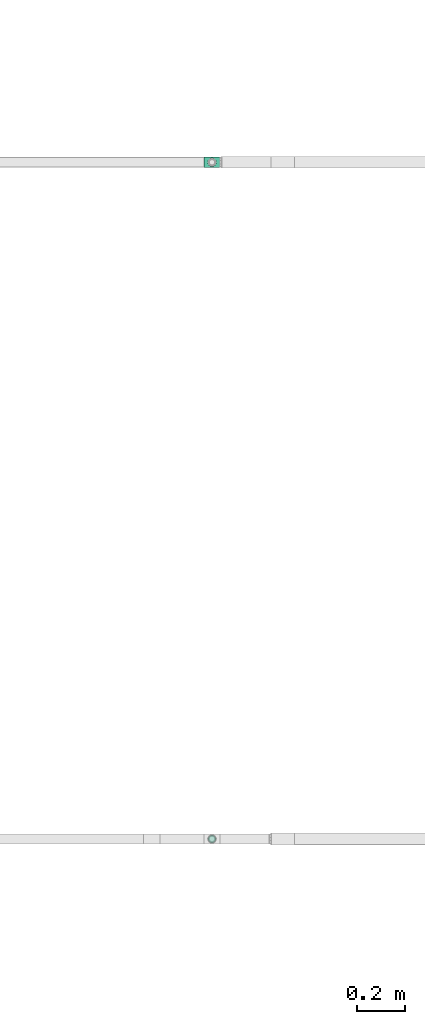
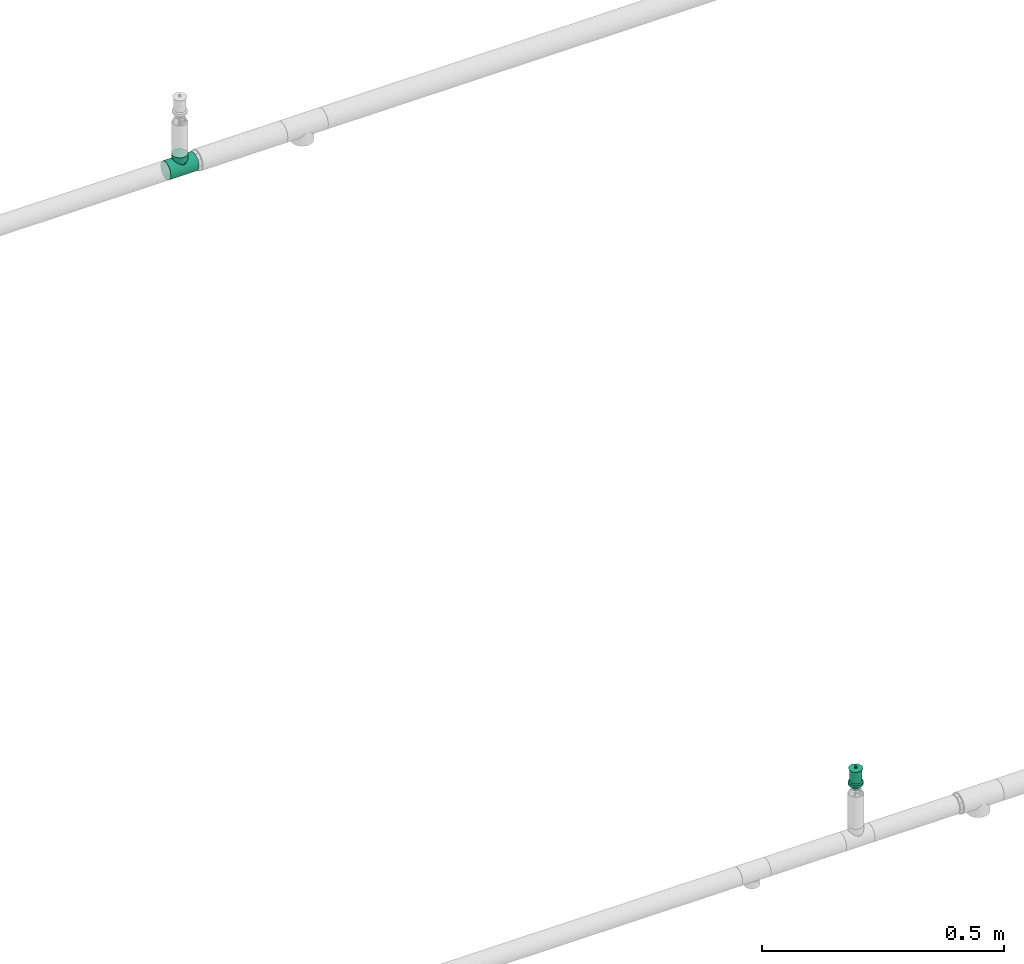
# One storey, part 75 of 94: 1 flow fitting, 1 flow terminal.
"""IFC2X3 building model written with IfcOpenShell, lengths in millimetres."""

from ifc_helpers import new_model, entity, si_unit, converted_unit, derived_unit, direction, frame, origin_with_axes, place, context, subcontext, project, spatial, open_shell, surface_model, source, transform, mapped, type_object, element, save


model = new_model("IFC2X3")

# Units and contexts
model_context = context("Model", 3, precision=0.01, world=frame((0.0, 4.29681676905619e-09, 0.0)), true_north=direction((4.01073788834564e-13, 1.0)))
plan_context = context("Plan", 3, precision=0.01, world=frame((0.0, 4.29681676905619e-09, 0.0)), true_north=direction((4.01073788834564e-13, 1.0)))
body_context = subcontext(model_context, "Body", "Model", "MODEL_VIEW")
ifc_project = project(units=[converted_unit("PLANEANGLEUNIT", "DEGREE", entity("IfcPositiveLengthMeasure", 0.0174532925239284), si_unit("PLANEANGLEUNIT", "RADIAN"), dimensions=[0, 0, 0, 0, 0, 0, 0]), si_unit("AREAUNIT", "SQUARE_METRE"), si_unit("LENGTHUNIT", "METRE", prefix="MILLI"), si_unit("MASSUNIT", "GRAM", prefix="KILO"), si_unit("POWERUNIT", "WATT"), si_unit("PRESSUREUNIT", "PASCAL"), si_unit("FORCEUNIT", "NEWTON", prefix="KILO"), si_unit("ELECTRICCURRENTUNIT", "AMPERE"), si_unit("THERMODYNAMICTEMPERATUREUNIT", "DEGREE_CELSIUS"), si_unit("TIMEUNIT", "SECOND"), si_unit("VOLUMEUNIT", "CUBIC_METRE"), derived_unit("LINEARVELOCITYUNIT", [(si_unit("LENGTHUNIT", "METRE"), 1), (si_unit("TIMEUNIT", "SECOND"), -1)]), derived_unit("VOLUMETRICFLOWRATEUNIT", [(si_unit("VOLUMEUNIT", "CUBIC_METRE"), 1), (si_unit("TIMEUNIT", "SECOND"), -1)]), derived_unit("THERMALTRANSMITTANCEUNIT", [(si_unit("POWERUNIT", "WATT"), 1), (si_unit("THERMODYNAMICTEMPERATUREUNIT", "KELVIN"), -1), (si_unit("AREAUNIT", "SQUARE_METRE"), -1)])], contexts=[model_context, plan_context])

# Site, building, storey
site_placement = place(None, frame((0.0, -4.29681676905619e-09, 0.0), z_axis=(0.0, 0.0, 1.0), x_axis=(1.0, 0.0, 0.0)))
site = spatial("IfcSite", under=ifc_project, at=site_placement, CompositionType="ELEMENT")
building_placement = place(site_placement, frame((0.0, 4.29681676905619e-09, 0.0), z_axis=(0.0, 0.0, 1.0), x_axis=(1.0, 0.0, 0.0)))
building = spatial("IfcBuilding", under=site, at=building_placement, Name="mc-building", CompositionType="ELEMENT")
storey_placement = place(building_placement, frame((0.0, 0.0, 200300.0), z_axis=(0.0, 0.0, 1.0), x_axis=(1.0, 0.0, 0.0)))
storey = spatial("IfcBuildingStorey", under=building, at=storey_placement, Name="Nivå C", CompositionType="ELEMENT", Elevation=200300.0)

# Flow fitting
pipe_fitting_type = type_object("IfcPipeFittingType", Name="magi_pipe_fe_tee_centric_90_NOR", PredefinedType="JUNCTION")
shared_shape_1 = source(origin_with_axes(), body_context, "Body", "SurfaceModel", [
    surface_model("IfcShellBasedSurfaceModel", [(-33.8, 0.0, -21.2), (-33.8, -5.48696, -20.47763), (-33.8, 5.48696, -20.47763), (-33.8, 10.6, -18.35974), (-33.8, 14.99066, -14.99066), (-33.8, -20.47763, 5.48696), (-33.8, 18.35974, -10.6), (-33.8, 10.6, 18.35974), (-33.8, -14.99066, -14.99066), (-33.8, -18.35974, -10.6), (-33.8, -10.6, -18.35974), (-33.8, -20.47763, -5.48696), (-33.8, -21.2, 0.0), (-33.8, 18.35974, 10.6), (-33.8, 20.47763, -5.48696), (-33.8, 20.47763, 5.48696), (-33.8, 21.2, 0.0), (-33.8, 14.99066, 14.99066), (-33.8, 5.48696, 20.47763), (-33.8, 0.0, 21.2), (-33.8, -18.35974, 10.6), (-33.8, -14.99066, 14.99066), (-33.8, -10.6, 18.35974), (-33.8, -5.48696, 20.47763), (33.8, 5.48696, -20.47763), (33.8, -5.48696, -20.47763), (33.8, 0.0, -21.2), (33.8, 14.99066, -14.99066), (33.8, 10.6, -18.35974), (33.8, 18.35974, -10.6), (33.8, 20.47763, -5.48696), (33.8, -21.2, 0.0), (33.8, -10.6, -18.35974), (33.8, -18.35974, -10.6), (33.8, -14.99066, -14.99066), (33.8, -20.47763, -5.48696), (33.8, -20.47763, 5.48696), (33.8, 21.2, 0.0), (33.8, 20.47763, 5.48696), (33.8, 18.35974, 10.6), (33.8, 10.6, 18.35974), (33.8, 14.99066, 14.99066), (33.8, 0.0, 21.2), (33.8, 5.48696, 20.47763), (33.8, -14.99066, 14.99066), (33.8, -18.35974, 10.6), (33.8, -10.6, 18.35974), (33.8, -5.48696, 20.47763), (16.9, -21.2, 0.0), (15.78624, -20.32327, 6.03364), (12.81343, -18.11115, 11.01935), (8.52479, -15.37862, 14.59239), (3.07939, -13.16482, 16.61708), (-16.9, -21.2, 0.0), (-15.78686, -20.32375, 6.032), (-8.52604, -15.37932, 14.59166), (-3.0848, -13.16609, 16.61608), (-12.81602, -18.11299, 11.01634), (3.07939, -13.16482, -16.61708), (12.81343, -18.11115, -11.01935), (8.52479, -15.37862, -14.59239), (15.78624, -20.32327, -6.03364), (-3.0848, -13.16609, -16.61608), (-8.52604, -15.37932, -14.59166), (-12.81602, -18.11299, -11.01634), (-15.78686, -20.32375, -6.032), (4.37404, -31.8, -16.32415), (-16.9, -31.8, 0.0), (0.0, -31.8, -16.9), (14.63583, -31.8, -8.45), (8.45, -31.8, -14.63583), (16.32415, -31.8, -4.37404), (11.9501, -31.8, -11.9501), (-11.9501, -31.8, -11.9501), (-8.45, -31.8, -14.63583), (-4.37404, -31.8, -16.32415), (-14.63583, -31.8, -8.45), (-16.32415, -31.8, -4.37404), (16.9, -31.8, 0.0), (8.45, -31.8, 14.63583), (16.32415, -31.8, 4.37404), (14.63583, -31.8, 8.45), (-8.45, -31.8, 14.63583), (11.9501, -31.8, 11.9501), (4.37404, -31.8, 16.32415), (-16.32415, -31.8, 4.37404), (-11.9501, -31.8, 11.9501), (-14.63583, -31.8, 8.45), (0.0, -31.8, 16.9), (-4.37404, -31.8, 16.32415), (-16.34343, -20.76188, 3.016), (16.34312, -20.76163, 3.01682), (-0.00271, -13.16546, 16.61658), (16.34312, -20.76163, -3.01682), (-0.00271, -13.16546, -16.61658), (-16.34343, -20.76188, -3.016)], [open_shell([[[0, 1, 2]], [[3, 2, 4]], [[5, 2, 1]], [[4, 2, 6]], [[6, 2, 7]], [[8, 9, 10]], [[1, 10, 9]], [[9, 11, 1]], [[12, 1, 11]], [[5, 1, 12]], [[13, 14, 6]], [[13, 15, 16]], [[6, 7, 13]], [[5, 7, 2]], [[17, 13, 7]], [[18, 7, 19]], [[20, 21, 5]], [[22, 5, 21]], [[23, 19, 22]], [[7, 5, 22]], [[22, 19, 7]], [[16, 14, 13]], [[24, 25, 26]], [[27, 24, 28]], [[29, 30, 24]], [[29, 24, 27]], [[31, 24, 30]], [[32, 33, 34]], [[33, 32, 25]], [[33, 31, 35]], [[31, 33, 25]], [[25, 24, 31]], [[30, 36, 31]], [[37, 38, 39]], [[37, 39, 40]], [[37, 40, 36]], [[40, 39, 41]], [[42, 40, 43]], [[36, 44, 45]], [[44, 36, 46]], [[46, 42, 47]], [[46, 36, 40]], [[40, 42, 46]], [[37, 36, 30]], [[31, 36, 48]], [[49, 48, 36]], [[36, 45, 49]], [[45, 44, 50]], [[51, 50, 44]], [[52, 51, 44]], [[44, 46, 52]], [[45, 50, 49]], [[53, 54, 5]], [[5, 12, 53]], [[54, 20, 5]], [[55, 56, 21]], [[20, 57, 21]], [[57, 20, 54]], [[21, 57, 55]], [[56, 22, 21]], [[52, 22, 56]], [[19, 47, 42]], [[23, 46, 47]], [[18, 42, 43]], [[39, 38, 15]], [[17, 40, 41]], [[13, 41, 39]], [[43, 40, 7]], [[16, 38, 37]], [[22, 46, 23]], [[23, 47, 19]], [[18, 19, 42]], [[43, 7, 18]], [[7, 40, 17]], [[13, 17, 41]], [[15, 13, 39]], [[38, 16, 15]], [[46, 22, 52]], [[6, 30, 29]], [[14, 37, 30]], [[4, 29, 27]], [[26, 25, 1]], [[2, 28, 24]], [[0, 24, 26]], [[27, 28, 3]], [[10, 25, 32]], [[16, 37, 14]], [[14, 30, 6]], [[4, 6, 29]], [[27, 3, 4]], [[3, 28, 2]], [[0, 2, 24]], [[1, 0, 26]], [[25, 10, 1]], [[32, 58, 10]], [[34, 59, 60]], [[59, 34, 33]], [[60, 58, 34]], [[34, 58, 32]], [[35, 31, 48]], [[35, 61, 33]], [[61, 35, 48]], [[33, 61, 59]], [[62, 63, 8]], [[8, 64, 9]], [[64, 8, 63]], [[62, 8, 10]], [[65, 53, 11]], [[65, 11, 9]], [[11, 53, 12]], [[65, 9, 64]], [[58, 62, 10]], [[66, 67, 68]], [[69, 66, 70]], [[69, 71, 66]], [[69, 70, 72]], [[67, 66, 71]], [[68, 73, 74]], [[74, 75, 68]], [[76, 67, 77]], [[73, 68, 76]], [[67, 76, 68]], [[71, 78, 67]], [[79, 78, 80]], [[79, 80, 81]], [[82, 67, 79]], [[79, 81, 83]], [[82, 79, 84]], [[85, 86, 87]], [[86, 85, 82]], [[82, 88, 89]], [[85, 67, 82]], [[84, 88, 82]], [[79, 67, 78]], [[85, 90, 67]], [[57, 87, 86]], [[85, 87, 54]], [[86, 82, 55]], [[85, 54, 90]], [[90, 53, 67]], [[54, 87, 57]], [[91, 49, 80]], [[55, 89, 56]], [[55, 57, 86]], [[88, 52, 92]], [[55, 82, 89]], [[52, 88, 84]], [[79, 51, 84]], [[50, 83, 81]], [[83, 51, 79]], [[81, 80, 49]], [[83, 50, 51]], [[51, 52, 84]], [[78, 91, 80]], [[49, 50, 81]], [[91, 78, 48]], [[88, 56, 89]], [[92, 56, 88]], [[71, 93, 78]], [[59, 69, 72]], [[71, 69, 61]], [[72, 70, 60]], [[93, 48, 78]], [[61, 69, 59]], [[60, 66, 58]], [[60, 59, 72]], [[68, 62, 94]], [[60, 70, 66]], [[95, 67, 53]], [[95, 65, 77]], [[71, 61, 93]], [[75, 62, 68]], [[65, 76, 77]], [[73, 76, 64]], [[68, 58, 66]], [[75, 63, 62]], [[63, 75, 74]], [[74, 73, 63]], [[63, 73, 64]], [[64, 76, 65]], [[67, 95, 77]], [[94, 58, 68]]])]),
])
flow_fitting_placement = place(storey_placement, frame((530502.26879, 416298.62756, 2850.0), z_axis=(0.0, -1.0, 0.0), x_axis=(-1.0, 0.0, 0.0)))
element("IfcFlowFitting", 1, at=flow_fitting_placement, inside=storey, type_object=pipe_fitting_type, Name="magi_pipe_fe_tee_centric_90_NOR", context=body_context, shape_type="MappedRepresentation", body=[
    mapped(shared_shape_1, transform((0.0, 0.0, 0.0), scale=1.0)),
])

# Flow terminal
fire_suppression_terminal_type = type_object("IfcFireSuppressionTerminalType", Name="68DGR-STD-STÅENDE", PredefinedType="NOTDEFINED")
shared_shape_2 = source(origin_with_axes(), body_context, "Body", "SurfaceModel", [
    surface_model("IfcShellBasedSurfaceModel", [(12.55704, 3.36465, 21.14766), (13.0, 0.0, 21.14766), (12.55704, -3.36465, 21.14766), (-12.55704, -3.36465, 21.14766), (-11.25833, -6.5, 21.14766), (-11.25833, -6.5, 51.0), (3.36465, -12.55704, 51.0), (3.36465, -12.55704, 21.14766), (6.5, -11.25833, 21.14766), (9.19239, -9.19239, 21.14766), (11.25833, -6.5, 21.14766), (9.19239, -9.19239, 51.0), (6.5, -11.25833, 51.0), (11.25833, -6.5, 51.0), (12.55704, -3.36465, 51.0), (13.0, 0.0, 51.0), (9.19239, 9.19239, 51.0), (11.25833, 6.5, 21.14766), (9.19239, 9.19239, 21.14766), (11.25833, 6.5, 51.0), (12.55704, 3.36465, 51.0), (6.5, 11.25833, 51.0), (6.5, 11.25833, 21.14766), (3.36465, 12.55704, 21.14766), (3.36465, 12.55704, 51.0), (-11.25833, 6.5, 51.0), (-11.25833, 6.5, 21.14766), (-12.55704, 3.36465, 21.14766), (0.0, -2.5, 51.0), (-2.5, 0.0, 51.0), (0.0, 2.5, 51.0), (2.5, 0.0, 51.0), (11.31371, 11.31371, 53.0), (-11.31371, 11.31371, 53.0), (-11.31371, -11.31371, 53.0), (11.31371, -11.31371, 53.0), (1.62635, 1.62635, 51.0), (2.16506, 1.25, 51.0), (1.99186, 1.15, 51.0), (-1.76777, 1.76777, 51.0), (-1.25, 2.16506, 51.0), (-1.62635, 1.62635, 51.0), (1.99186, -1.15, 51.0), (2.16506, -1.25, 51.0), (1.62635, -1.62635, 51.0), (-1.62635, -1.62635, 51.0), (-1.25, -2.16506, 51.0), (-1.76777, -1.76777, 51.0), (0.0, 7.3, 0.0), (1.94114, 7.24444, 0.0), (1.88938, 7.05126, 0.0), (5.16188, 5.16188, 0.0), (6.49519, 3.75, 0.0), (6.32199, 3.65, 0.0), (-5.3033, 5.3033, 0.0), (-3.75, 6.49519, 0.0), (-5.16188, 5.16188, 0.0), (6.32199, -3.65, 0.0), (6.49519, -3.75, 0.0), (5.16188, -5.16188, 0.0), (1.88938, -7.05126, 0.0), (1.94114, -7.24444, 0.0), (0.0, -7.3, 0.0), (-5.16188, -5.16188, 0.0), (-3.75, -6.49519, 0.0), (-5.3033, -5.3033, 0.0), (-3.36465, 12.55704, 51.0), (-6.5, 11.25833, 51.0), (0.0, 13.0, 51.0), (-9.19239, 9.19239, 51.0), (0.0, -13.0, 51.0), (-9.19239, -9.19239, 51.0), (-12.55704, -3.36465, 51.0), (-6.5, -11.25833, 51.0), (-3.36465, -12.55704, 51.0), (-7.5, 0.0, -0.1), (-7.24444, 1.94114, 0.1), (-7.24444, 1.94114, -0.1), (-6.49519, 3.75, 0.1), (-6.49519, 3.75, -0.1), (-3.75, 6.49519, -0.1), (-5.3033, 5.3033, -0.1), (-3.75, 6.49519, 0.1), (-5.3033, 5.3033, 0.1), (-1.94114, 7.24444, -0.1), (-1.94114, 7.24444, 0.1), (-7.5, 0.0, 0.1), (0.0, 7.5, 0.1), (0.0, 7.5, -0.1), (1.94114, 7.24444, 0.1), (1.94114, 7.24444, -0.1), (3.75, 6.49519, 0.1), (3.75, 6.49519, -0.1), (6.49519, 3.75, -0.1), (5.3033, 5.3033, -0.1), (6.49519, 3.75, 0.1), (5.3033, 5.3033, 0.1), (7.24444, 1.94114, -0.1), (7.24444, 1.94114, 0.1), (7.5, 0.0, 0.1), (7.5, 0.0, -0.1), (-7.24444, -1.94114, 0.1), (7.24444, -1.94114, 0.1), (5.3033, -5.3033, 0.1), (6.49519, -3.75, 0.1), (-6.49519, -3.75, 0.1), (0.0, -7.5, 0.1), (1.94114, -7.24444, 0.1), (3.75, -6.49519, 0.1), (-3.75, -6.49519, 0.1), (-1.94114, -7.24444, 0.1), (-5.3033, -5.3033, 0.1), (0.0, -7.5, -0.1), (-6.49519, -3.75, -0.1), (1.94114, -7.24444, -0.1), (3.75, -6.49519, -0.1), (5.3033, -5.3033, -0.1), (7.24444, -1.94114, -0.1), (6.49519, -3.75, -0.1), (-3.75, -6.49519, -0.1), (-5.3033, -5.3033, -0.1), (-1.94114, -7.24444, -0.1), (-7.24444, -1.94114, -0.1), (16.0, 0.0, 53.0), (0.0, -16.0, 53.0), (-16.0, 0.0, 53.0), (0.0, 16.0, 53.0), (0.64705, 2.41481, 57.0), (0.0, 2.5, 57.0), (1.25, 2.16506, 57.0), (-2.5, 0.0, 57.0), (1.76777, 1.76777, 57.0), (2.41481, 0.64705, 57.0), (2.16506, 1.25, 57.0), (-0.64705, 2.41481, 57.0), (-1.25, 2.16506, 57.0), (-1.76777, 1.76777, 57.0), (-2.16506, 1.25, 57.0), (-2.41481, 0.64705, 57.0), (2.5, 0.0, 57.0), (1.76777, -1.76777, 57.0), (2.16506, -1.25, 57.0), (2.41481, -0.64705, 57.0), (-2.41481, -0.64705, 57.0), (0.64705, -2.41481, 57.0), (1.25, -2.16506, 57.0), (0.0, -2.5, 57.0), (-1.76777, -1.76777, 57.0), (-2.16506, -1.25, 57.0), (-1.25, -2.16506, 57.0), (-0.64705, -2.41481, 57.0), (1.15, -1.99186, 51.0), (1.76777, -1.76777, 51.0), (1.25, -2.16506, 51.0), (0.59528, -2.22163, 51.0), (0.0, -2.3, 51.0), (0.64705, -2.41481, 51.0), (2.22163, -0.59528, 51.0), (2.3, 0.0, 51.0), (2.41481, -0.64705, 51.0), (-0.64705, -2.41481, 51.0), (-0.59528, -2.22163, 51.0), (-1.15, -1.99186, 51.0), (-2.16506, -1.25, 51.0), (-1.99186, -1.15, 51.0), (-2.22163, -0.59528, 51.0), (-2.3, 0.0, 51.0), (-2.41481, -0.64705, 51.0), (2.22163, 0.59528, 51.0), (2.41481, 0.64705, 51.0), (1.76777, 1.76777, 51.0), (1.15, 1.99186, 51.0), (1.25, 2.16506, 51.0), (0.59528, 2.22163, 51.0), (0.0, 2.3, 51.0), (0.64705, 2.41481, 51.0), (-1.99186, 1.15, 51.0), (-2.16506, 1.25, 51.0), (-2.41481, 0.64705, 51.0), (-2.22163, 0.59528, 51.0), (-0.64705, 2.41481, 51.0), (-0.59528, 2.22163, 51.0), (-1.15, 1.99186, 51.0), (-2.22163, 0.59528, 56.8), (-1.99186, 1.15, 56.8), (-1.15, 1.99186, 56.8), (-1.62635, 1.62635, 56.8), (-0.59528, 2.22163, 56.8), (-2.3, 0.0, 56.8), (0.0, 2.3, 56.8), (0.59528, 2.22163, 56.8), (1.15, 1.99186, 56.8), (1.99186, 1.15, 56.8), (1.62635, 1.62635, 56.8), (2.22163, 0.59528, 56.8), (2.3, 0.0, 56.8), (2.22163, -0.59528, 56.8), (1.99186, -1.15, 56.8), (1.62635, -1.62635, 56.8), (1.15, -1.99186, 56.8), (0.59528, -2.22163, 56.8), (0.0, -2.3, 56.8), (-1.99186, -1.15, 56.8), (-2.22163, -0.59528, 56.8), (-1.62635, -1.62635, 56.8), (-0.59528, -2.22163, 56.8), (-1.15, -1.99186, 56.8), (8.0, -13.85641, 13.0), (4.1411, -15.45481, 13.0), (0.0, -16.0, 13.0), (-4.1411, -15.45481, 13.0), (15.45481, -4.1411, 13.0), (13.85641, -8.0, 13.0), (11.31371, -11.31371, 13.0), (-16.0, 0.0, 13.0), (-8.0, -13.85641, 13.0), (-11.31371, -11.31371, 13.0), (-13.85641, -8.0, 13.0), (-15.45481, -4.1411, 13.0), (15.45481, 4.1411, 13.0), (4.1411, 15.45481, 13.0), (13.85641, 8.0, 13.0), (8.0, 13.85641, 13.0), (11.31371, 11.31371, 13.0), (-15.45481, 4.1411, 13.0), (-11.31371, 11.31371, 13.0), (-8.0, 13.85641, 13.0), (-13.85641, 8.0, 13.0), (-4.1411, 15.45481, 13.0), (0.0, 16.0, 13.0), (16.0, 0.0, 13.0), (7.05126, 1.88938, 12.8), (1.88938, 7.05126, 12.8), (3.65, 6.32199, 12.8), (6.32199, 3.65, 12.8), (5.16188, 5.16188, 12.8), (7.3, 0.0, 12.8), (0.0, 7.3, 12.8), (-3.65, 6.32199, 12.8), (-1.88938, 7.05126, 12.8), (-5.16188, 5.16188, 12.8), (-7.05126, 1.88938, 12.8), (-6.32199, 3.65, 12.8), (7.05126, -1.88938, 12.8), (0.0, -7.3, 12.8), (6.32199, -3.65, 12.8), (3.65, -6.32199, 12.8), (5.16188, -5.16188, 12.8), (1.88938, -7.05126, 12.8), (-7.3, 0.0, 12.8), (-6.32199, -3.65, 12.8), (-7.05126, -1.88938, 12.8), (-1.88938, -7.05126, 12.8), (-5.16188, -5.16188, 12.8), (-3.65, -6.32199, 12.8), (-7.05126, 1.88938, 0.0), (-7.3, 0.0, 0.0), (-6.32199, 3.65, 0.0), (-3.65, 6.32199, 0.0), (-1.88938, 7.05126, 0.0), (3.65, 6.32199, 0.0), (7.05126, 1.88938, 0.0), (7.3, 0.0, 0.0), (3.75, 6.49519, 13.0), (1.94114, 7.24444, 13.0), (7.5, 0.0, 13.0), (5.3033, 5.3033, 13.0), (7.24444, 1.94114, 13.0), (6.49519, 3.75, 13.0), (-5.3033, 5.3033, 13.0), (-7.24444, -1.94114, 13.0), (-1.94114, 7.24444, 13.0), (-3.75, 6.49519, 13.0), (0.0, 7.5, 13.0), (-6.49519, 3.75, 13.0), (-7.24444, 1.94114, 13.0), (7.24444, -1.94114, 13.0), (5.3033, -5.3033, 13.0), (6.49519, -3.75, 13.0), (-6.49519, -3.75, 13.0), (0.0, -7.5, 13.0), (1.94114, -7.24444, 13.0), (3.75, -6.49519, 13.0), (-7.5, 0.0, 13.0), (-3.75, -6.49519, 13.0), (-1.94114, -7.24444, 13.0), (-5.3033, -5.3033, 13.0), (3.65, -6.32199, 0.0), (5.3033, -5.3033, 0.0), (3.75, -6.49519, 0.0), (0.0, -7.5, 0.0), (7.05126, -1.88938, 0.0), (7.24444, -1.94114, 0.0), (7.5, 0.0, 0.0), (-1.94114, -7.24444, 0.0), (-1.88938, -7.05126, 0.0), (-3.65, -6.32199, 0.0), (-6.49519, -3.75, 0.0), (-6.32199, -3.65, 0.0), (-7.05126, -1.88938, 0.0), (-7.24444, -1.94114, 0.0), (-7.5, 0.0, 0.0), (7.24444, 1.94114, 0.0), (5.3033, 5.3033, 0.0), (3.75, 6.49519, 0.0), (0.0, 7.5, 0.0), (-6.49519, 3.75, 0.0), (-7.24444, 1.94114, 0.0), (-1.94114, 7.24444, 0.0), (-12.55704, 3.36465, 51.0), (-13.0, 0.0, 51.0), (0.0, -13.0, 21.14766), (-3.36465, -12.55704, 21.14766), (-6.5, -11.25833, 21.14766), (-9.19239, -9.19239, 21.14766), (-13.0, 0.0, 21.14766), (-9.19239, 9.19239, 21.14766), (-6.5, 11.25833, 21.14766), (-3.36465, 12.55704, 21.14766), (0.0, 13.0, 21.14766), (11.31371, 11.31371, 19.0), (8.0, 13.85641, 19.0), (4.1411, 15.45481, 19.0), (-8.0, 13.85641, 19.0), (16.0, 0.0, 19.0), (15.45481, 4.1411, 19.0), (13.85641, 8.0, 19.0), (-4.1411, 15.45481, 19.0), (0.0, 16.0, 19.0), (-11.31371, 11.31371, 19.0), (-13.85641, 8.0, 19.0), (-15.45481, 4.1411, 19.0), (15.45481, -4.1411, 19.0), (11.31371, -11.31371, 19.0), (13.85641, -8.0, 19.0), (-16.0, 0.0, 19.0), (0.0, -16.0, 19.0), (4.1411, -15.45481, 19.0), (8.0, -13.85641, 19.0), (-13.85641, -8.0, 19.0), (-11.31371, -11.31371, 19.0), (-15.45481, -4.1411, 19.0), (-8.0, -13.85641, 19.0), (-4.1411, -15.45481, 19.0)], [open_shell([[[0, 1, 2]], [[3, 4, 5]], [[6, 7, 8]], [[9, 10, 11]], [[9, 11, 12]], [[10, 13, 11]], [[14, 13, 2]], [[1, 15, 14]], [[16, 17, 18]], [[0, 19, 20]], [[20, 15, 1]], [[21, 16, 18]], [[22, 23, 24]], [[16, 19, 17]], [[25, 26, 27]], [[28, 29, 30]], [[30, 31, 28]], [[31, 30, 32]], [[33, 30, 29]], [[29, 28, 34]], [[35, 28, 31]], [[36, 37, 38]], [[39, 40, 41]], [[42, 43, 44]], [[45, 46, 47]], [[48, 49, 50]], [[51, 52, 53]], [[54, 55, 56]], [[57, 58, 59]], [[60, 61, 62]], [[63, 64, 65]], [[66, 67, 68]], [[67, 24, 68]], [[69, 25, 67]], [[15, 20, 14]], [[70, 6, 12]], [[5, 71, 72]], [[73, 74, 71]], [[72, 71, 74]], [[75, 76, 77]], [[77, 78, 79]], [[80, 81, 82]], [[83, 81, 79]], [[84, 80, 85]], [[76, 78, 77]], [[75, 86, 76]], [[80, 82, 85]], [[82, 81, 83]], [[79, 78, 83]], [[84, 85, 87]], [[87, 88, 84]], [[88, 89, 90]], [[90, 91, 92]], [[93, 94, 95]], [[96, 94, 92]], [[97, 93, 98]], [[91, 96, 92]], [[90, 89, 91]], [[97, 98, 99]], [[98, 93, 95]], [[94, 96, 95]], [[97, 99, 100]], [[87, 89, 88]], [[91, 89, 99]], [[96, 91, 98]], [[91, 99, 98]], [[95, 96, 98]], [[89, 83, 101]], [[85, 82, 87]], [[83, 87, 82]], [[78, 76, 83]], [[89, 87, 83]], [[76, 101, 83]], [[102, 99, 89]], [[103, 104, 102]], [[89, 105, 103]], [[103, 106, 107]], [[108, 103, 107]], [[106, 103, 105]], [[89, 101, 105]], [[101, 76, 86]], [[109, 110, 111]], [[105, 111, 110]], [[106, 105, 110]], [[103, 102, 89]], [[112, 113, 114]], [[115, 114, 116]], [[117, 118, 116]], [[113, 116, 114]], [[116, 113, 117]], [[119, 120, 121]], [[113, 121, 120]], [[121, 113, 112]], [[113, 122, 117]], [[75, 77, 122]], [[100, 117, 122]], [[100, 81, 97]], [[93, 97, 90]], [[90, 92, 94]], [[93, 90, 94]], [[90, 97, 81]], [[79, 81, 77]], [[77, 81, 122]], [[84, 88, 80]], [[81, 80, 88]], [[81, 88, 90]], [[100, 122, 81]], [[100, 102, 117]], [[117, 104, 118]], [[115, 116, 108]], [[103, 116, 118]], [[114, 115, 107]], [[102, 104, 117]], [[100, 99, 102]], [[115, 108, 107]], [[108, 116, 103]], [[118, 104, 103]], [[114, 107, 106]], [[106, 112, 114]], [[112, 110, 121]], [[121, 109, 119]], [[113, 120, 105]], [[111, 120, 119]], [[122, 113, 101]], [[109, 111, 119]], [[121, 110, 109]], [[122, 101, 86]], [[101, 113, 105]], [[120, 111, 105]], [[122, 86, 75]], [[106, 110, 112]], [[31, 123, 35]], [[35, 124, 28]], [[124, 34, 28]], [[29, 34, 125]], [[33, 32, 126]], [[33, 125, 124]], [[124, 32, 33]], [[124, 35, 123]], [[124, 125, 34]], [[123, 32, 124]], [[29, 125, 33]], [[33, 126, 30]], [[126, 32, 30]], [[31, 32, 123]], [[127, 128, 129]], [[129, 130, 131]], [[132, 131, 130]], [[133, 131, 132]], [[130, 129, 128]], [[134, 135, 128]], [[136, 128, 135]], [[137, 138, 136]], [[128, 136, 130]], [[138, 130, 136]], [[139, 132, 130]], [[140, 141, 142]], [[143, 140, 139]], [[144, 140, 143]], [[145, 140, 144]], [[146, 144, 147]], [[139, 130, 143]], [[143, 148, 144]], [[149, 150, 147]], [[144, 148, 147]], [[146, 147, 150]], [[140, 142, 139]], [[151, 152, 153]], [[154, 151, 153]], [[155, 154, 156]], [[153, 156, 154]], [[28, 155, 156]], [[44, 152, 151]], [[157, 158, 159]], [[31, 159, 158]], [[43, 157, 159]], [[152, 44, 43]], [[157, 43, 42]], [[160, 161, 28]], [[161, 155, 28]], [[162, 161, 160]], [[160, 46, 162]], [[162, 46, 45]], [[47, 163, 164]], [[165, 164, 163]], [[45, 47, 164]], [[166, 165, 167]], [[163, 167, 165]], [[29, 166, 167]], [[168, 169, 31]], [[38, 169, 168]], [[169, 38, 37]], [[170, 37, 36]], [[171, 172, 170]], [[173, 172, 171]], [[174, 175, 173]], [[172, 173, 175]], [[30, 175, 174]], [[170, 36, 171]], [[39, 176, 177]], [[41, 176, 39]], [[178, 177, 176]], [[178, 179, 29]], [[176, 179, 178]], [[179, 166, 29]], [[180, 30, 181]], [[182, 180, 181]], [[182, 41, 40]], [[180, 182, 40]], [[181, 30, 174]], [[31, 158, 168]], [[29, 138, 178]], [[178, 137, 177]], [[40, 39, 135]], [[136, 39, 177]], [[180, 40, 134]], [[138, 137, 178]], [[29, 130, 138]], [[40, 135, 134]], [[135, 39, 136]], [[177, 137, 136]], [[180, 134, 128]], [[128, 30, 180]], [[30, 127, 175]], [[175, 129, 172]], [[37, 170, 133]], [[131, 170, 172]], [[169, 37, 132]], [[129, 131, 172]], [[175, 127, 129]], [[169, 132, 139]], [[132, 37, 133]], [[170, 131, 133]], [[169, 139, 31]], [[128, 127, 30]], [[179, 183, 166]], [[176, 184, 179]], [[185, 41, 182]], [[176, 41, 186]], [[187, 182, 181]], [[179, 184, 183]], [[183, 188, 166]], [[187, 185, 182]], [[186, 41, 185]], [[186, 184, 176]], [[189, 187, 181]], [[181, 174, 189]], [[173, 190, 174]], [[171, 191, 173]], [[192, 36, 38]], [[171, 36, 193]], [[194, 38, 168]], [[171, 193, 191]], [[191, 190, 173]], [[195, 194, 168]], [[192, 38, 194]], [[192, 193, 36]], [[158, 195, 168]], [[174, 190, 189]], [[31, 142, 159]], [[159, 141, 43]], [[153, 152, 145]], [[140, 152, 43]], [[156, 153, 144]], [[142, 141, 159]], [[31, 139, 142]], [[153, 145, 144]], [[145, 152, 140]], [[43, 141, 140]], [[156, 144, 146]], [[146, 28, 156]], [[28, 150, 160]], [[160, 149, 46]], [[163, 47, 148]], [[147, 47, 46]], [[167, 163, 143]], [[149, 147, 46]], [[160, 150, 149]], [[167, 143, 130]], [[143, 163, 148]], [[47, 147, 148]], [[167, 130, 29]], [[146, 150, 28]], [[190, 191, 193]], [[190, 193, 195]], [[194, 195, 193]], [[194, 193, 192]], [[190, 195, 186]], [[189, 185, 187]], [[185, 189, 186]], [[186, 183, 184]], [[186, 189, 190]], [[186, 196, 183]], [[186, 195, 196]], [[196, 197, 198]], [[196, 198, 199]], [[199, 200, 201]], [[199, 201, 196]], [[196, 201, 202]], [[188, 202, 203]], [[183, 202, 188]], [[204, 205, 206]], [[205, 204, 202]], [[201, 205, 202]], [[202, 183, 196]], [[157, 196, 158]], [[42, 197, 157]], [[199, 44, 151]], [[42, 44, 198]], [[200, 151, 154]], [[157, 197, 196]], [[196, 195, 158]], [[200, 199, 151]], [[198, 44, 199]], [[198, 197, 42]], [[201, 200, 154]], [[154, 155, 201]], [[161, 205, 155]], [[162, 206, 161]], [[202, 45, 164]], [[162, 45, 204]], [[203, 164, 165]], [[162, 204, 206]], [[206, 205, 161]], [[188, 203, 165]], [[202, 164, 203]], [[202, 204, 45]], [[166, 188, 165]], [[155, 205, 201]], [[207, 208, 209]], [[207, 209, 210]], [[211, 212, 213]], [[213, 207, 214]], [[211, 213, 214]], [[215, 216, 210]], [[217, 210, 216]], [[217, 218, 210]], [[218, 207, 210]], [[218, 214, 207]], [[214, 219, 211]], [[220, 219, 214]], [[221, 219, 220]], [[220, 222, 223]], [[221, 220, 223]], [[214, 224, 220]], [[225, 226, 227]], [[224, 227, 226]], [[228, 229, 226]], [[220, 224, 226]], [[226, 229, 220]], [[219, 230, 211]], [[231, 232, 233]], [[234, 233, 235]], [[231, 236, 232]], [[231, 233, 234]], [[232, 236, 237]], [[237, 238, 239]], [[238, 237, 240]], [[240, 241, 242]], [[240, 237, 236]], [[236, 241, 240]], [[236, 243, 241]], [[244, 243, 245]], [[246, 245, 247]], [[246, 248, 244]], [[246, 244, 245]], [[243, 244, 249]], [[249, 250, 251]], [[250, 249, 252]], [[253, 252, 254]], [[252, 253, 250]], [[249, 244, 252]], [[243, 249, 241]], [[255, 241, 256]], [[257, 242, 255]], [[238, 56, 258]], [[257, 56, 240]], [[239, 258, 259]], [[255, 242, 241]], [[241, 249, 256]], [[239, 238, 258]], [[240, 56, 238]], [[240, 242, 257]], [[237, 239, 259]], [[259, 48, 237]], [[50, 232, 48]], [[260, 233, 50]], [[234, 51, 53]], [[260, 51, 235]], [[231, 53, 261]], [[260, 235, 233]], [[233, 232, 50]], [[236, 231, 261]], [[234, 53, 231]], [[234, 235, 51]], [[262, 236, 261]], [[48, 232, 237]], [[263, 264, 265]], [[266, 263, 267]], [[263, 265, 267]], [[268, 266, 267]], [[264, 269, 270]], [[271, 272, 273]], [[269, 273, 272]], [[274, 275, 269]], [[264, 273, 269]], [[275, 270, 269]], [[276, 265, 264]], [[277, 278, 276]], [[264, 279, 277]], [[277, 280, 281]], [[282, 277, 281]], [[280, 277, 279]], [[264, 270, 279]], [[270, 275, 283]], [[284, 285, 286]], [[279, 286, 285]], [[280, 279, 285]], [[277, 276, 264]], [[287, 288, 289]], [[60, 287, 289]], [[290, 62, 61]], [[289, 61, 60]], [[59, 288, 287]], [[291, 262, 292]], [[293, 292, 262]], [[58, 291, 292]], [[288, 59, 58]], [[291, 58, 57]], [[294, 295, 290]], [[296, 295, 294]], [[294, 64, 296]], [[64, 63, 296]], [[295, 62, 290]], [[65, 297, 298]], [[299, 298, 297]], [[63, 65, 298]], [[256, 299, 300]], [[297, 300, 299]], [[301, 256, 300]], [[261, 302, 293]], [[53, 302, 261]], [[302, 53, 52]], [[303, 52, 51]], [[260, 304, 303]], [[50, 304, 260]], [[304, 50, 49]], [[305, 49, 48]], [[303, 51, 260]], [[54, 257, 306]], [[56, 257, 54]], [[307, 306, 257]], [[307, 255, 301]], [[257, 255, 307]], [[255, 256, 301]], [[308, 305, 259]], [[258, 308, 259]], [[55, 258, 56]], [[308, 258, 55]], [[259, 305, 48]], [[293, 262, 261]], [[301, 275, 307]], [[307, 274, 306]], [[55, 54, 272]], [[269, 54, 306]], [[308, 55, 271]], [[275, 274, 307]], [[301, 283, 275]], [[55, 272, 271]], [[272, 54, 269]], [[306, 274, 269]], [[308, 271, 273]], [[273, 305, 308]], [[305, 264, 49]], [[49, 263, 304]], [[52, 303, 268]], [[266, 303, 304]], [[302, 52, 267]], [[263, 266, 304]], [[49, 264, 263]], [[302, 267, 265]], [[267, 52, 268]], [[303, 266, 268]], [[302, 265, 293]], [[273, 264, 305]], [[293, 276, 292]], [[292, 278, 58]], [[289, 288, 282]], [[277, 288, 58]], [[61, 289, 281]], [[276, 278, 292]], [[293, 265, 276]], [[289, 282, 281]], [[282, 288, 277]], [[58, 278, 277]], [[61, 281, 280]], [[280, 290, 61]], [[290, 285, 294]], [[294, 284, 64]], [[297, 65, 279]], [[286, 65, 64]], [[300, 297, 270]], [[284, 286, 64]], [[294, 285, 284]], [[300, 270, 283]], [[270, 297, 279]], [[65, 286, 279]], [[300, 283, 301]], [[280, 285, 290]], [[291, 243, 262]], [[57, 245, 291]], [[246, 59, 287]], [[57, 59, 247]], [[248, 287, 60]], [[291, 245, 243]], [[243, 236, 262]], [[248, 246, 287]], [[247, 59, 246]], [[247, 245, 57]], [[244, 248, 60]], [[60, 62, 244]], [[295, 252, 62]], [[296, 254, 295]], [[250, 63, 298]], [[296, 63, 253]], [[251, 298, 299]], [[296, 253, 254]], [[254, 252, 295]], [[249, 251, 299]], [[250, 298, 251]], [[250, 253, 63]], [[256, 249, 299]], [[62, 252, 244]], [[16, 21, 24]], [[20, 16, 24]], [[24, 67, 72]], [[19, 16, 20]], [[24, 72, 20]], [[25, 72, 67]], [[309, 310, 25]], [[11, 13, 14]], [[72, 11, 20]], [[74, 12, 11]], [[12, 74, 70]], [[72, 25, 310]], [[72, 74, 11]], [[11, 14, 20]], [[8, 7, 311]], [[8, 311, 312]], [[2, 10, 9]], [[3, 9, 8]], [[3, 26, 9]], [[313, 314, 312]], [[3, 312, 314]], [[4, 3, 314]], [[3, 8, 312]], [[315, 26, 3]], [[2, 9, 26]], [[0, 2, 26]], [[17, 0, 18]], [[23, 22, 18]], [[0, 23, 18]], [[23, 0, 26]], [[316, 317, 26]], [[26, 315, 27]], [[318, 319, 317]], [[23, 26, 317]], [[23, 317, 319]], [[316, 26, 25]], [[318, 317, 67]], [[69, 317, 316]], [[319, 318, 66]], [[310, 309, 315]], [[27, 315, 309]], [[25, 27, 309]], [[25, 69, 316]], [[317, 69, 67]], [[67, 66, 318]], [[66, 68, 319]], [[22, 21, 18]], [[0, 17, 19]], [[1, 0, 20]], [[68, 24, 23]], [[24, 21, 22]], [[319, 68, 23]], [[1, 14, 2]], [[2, 13, 10]], [[6, 311, 7]], [[6, 8, 12]], [[12, 8, 9]], [[6, 70, 311]], [[313, 312, 74]], [[313, 73, 314]], [[71, 4, 314]], [[315, 3, 72]], [[70, 74, 312]], [[74, 73, 313]], [[73, 71, 314]], [[71, 5, 4]], [[3, 5, 72]], [[72, 310, 315]], [[311, 70, 312]], [[320, 321, 322]], [[320, 322, 323]], [[320, 324, 325]], [[326, 320, 325]], [[324, 320, 323]], [[327, 323, 328]], [[323, 322, 328]], [[329, 330, 323]], [[331, 323, 330]], [[323, 331, 324]], [[331, 332, 324]], [[333, 334, 332]], [[335, 333, 331]], [[336, 337, 338]], [[335, 338, 333]], [[338, 335, 336]], [[339, 340, 341]], [[335, 341, 340]], [[342, 343, 340]], [[335, 340, 343]], [[343, 336, 335]], [[332, 331, 333]], [[214, 331, 224]], [[224, 330, 227]], [[226, 225, 323]], [[329, 225, 227]], [[228, 226, 327]], [[331, 330, 224]], [[214, 335, 331]], [[226, 323, 327]], [[323, 225, 329]], [[227, 330, 329]], [[228, 327, 328]], [[328, 229, 228]], [[229, 322, 220]], [[220, 321, 222]], [[221, 223, 326]], [[320, 223, 222]], [[219, 221, 325]], [[321, 320, 222]], [[220, 322, 321]], [[219, 325, 324]], [[325, 221, 326]], [[223, 320, 326]], [[219, 324, 230]], [[328, 322, 229]], [[230, 332, 211]], [[211, 334, 212]], [[207, 213, 338]], [[333, 213, 212]], [[208, 207, 337]], [[332, 334, 211]], [[230, 324, 332]], [[207, 338, 337]], [[338, 213, 333]], [[212, 334, 333]], [[208, 337, 336]], [[336, 209, 208]], [[209, 343, 210]], [[210, 342, 215]], [[217, 216, 339]], [[340, 216, 215]], [[218, 217, 341]], [[342, 340, 215]], [[210, 343, 342]], [[218, 341, 335]], [[341, 217, 339]], [[216, 340, 339]], [[218, 335, 214]], [[336, 343, 209]]])]),
])
flow_terminal_placement = place(storey_placement, frame((530502.26879, 413500.1625, 2972.0), z_axis=(0.0, 0.0, 1.0), x_axis=(-1.0, 0.0, 0.0)))
element("IfcFlowTerminal", 2, at=flow_terminal_placement, inside=storey, type_object=fire_suppression_terminal_type, Name="68DGR-STD-STÅENDE", context=body_context, shape_type="MappedRepresentation", body=[
    mapped(shared_shape_2, transform((0.0, 0.0, 0.0), scale=1.0)),
])

save(model, "model.ifc")
